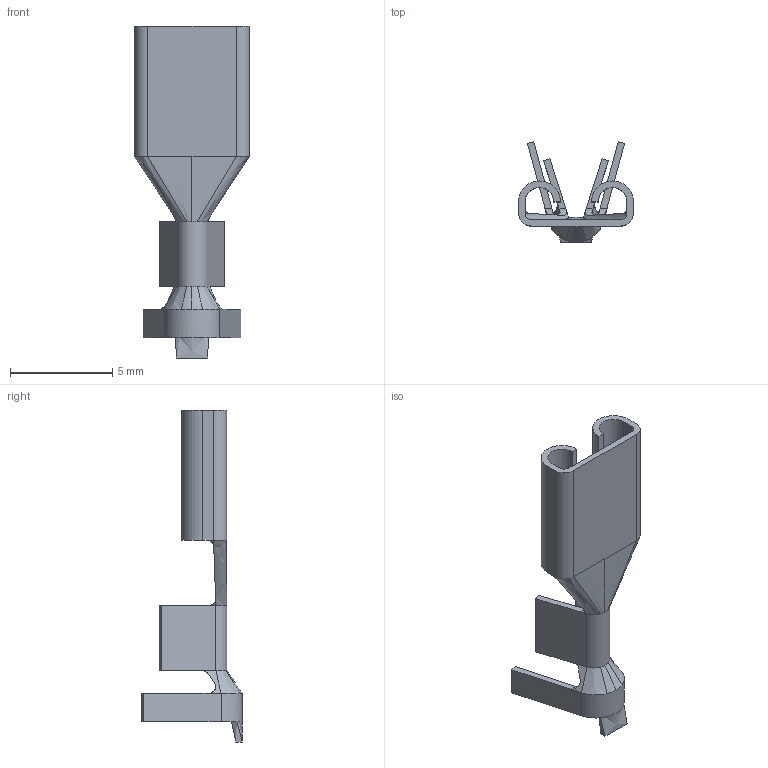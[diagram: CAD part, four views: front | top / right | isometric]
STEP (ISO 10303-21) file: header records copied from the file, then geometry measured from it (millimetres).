
FILE_DESCRIPTION((''),'2;1');
FILE_NAME('C-170466-1-D-3D','2024-05-27T19:10:53',('JSB0628'),(''),'CREO PARAMETRIC BY PTC INC, 2018050','CREO PARAMETRIC BY PTC INC, 2018050','');
FILE_SCHEMA(('CONFIG_CONTROL_DESIGN'));
Length unit declared in the file: millimetre
Products named in the file (1): C-170466-1-D-3D
Bounding box: 5.61 x 4.9 x 16.2 mm (x, y, z)
Volume: 42.4 mm3; surface area: 293 mm2
Topology: 1 solids, 1 shells, 91 faces, 228 edges, 140 vertices
Faces by surface type: plane 37, bspline 32, cylinder 20, cone 1, torus 1
Entity records: 3647 total; most frequent: CARTESIAN_POINT 1584, ORIENTED_EDGE 456, DIRECTION 355, EDGE_CURVE 228, VERTEX_POINT 140, VECTOR 133, LINE 133, AXIS2_PLACEMENT_3D 111
